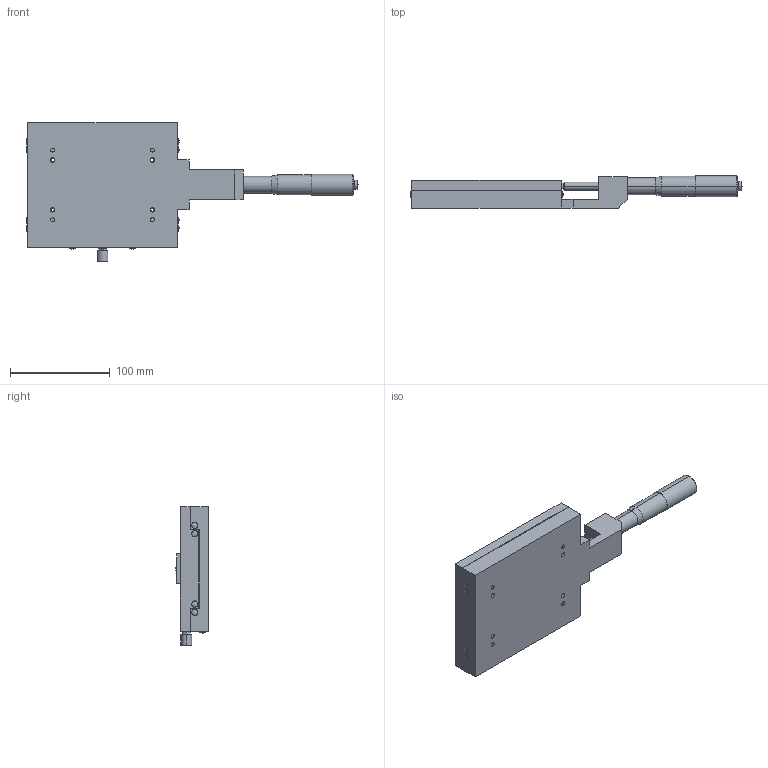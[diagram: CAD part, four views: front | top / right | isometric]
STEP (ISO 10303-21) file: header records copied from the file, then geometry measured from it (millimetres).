
FILE_DESCRIPTION (( 'STEP AP203' ), '1' );
FILE_NAME ('LS-241-C1.STEP', '2008-03-28T08:20:00', ( '' ), ( '' ), 'SwSTEP 2.0', 'SolidWorks 2007', '' );
FILE_SCHEMA (( 'CONFIG_CONTROL_DESIGN' ));
Length unit declared in the file: millimetre
Products named in the file (3): LS-241-C1; LS-241-C1-2_蹬怮椔; LS-241-C1-1_蹬怮椔
Assembly tree (2 placements, depth 2):
  LS-241-C1
    LS-241-C1-2_蹬怮椔
    LS-241-C1-1_蹬怮椔
Bounding box: 333.32 x 32.5 x 139.3 mm (x, y, z)
Volume: 576985.6 mm3; surface area: 128054.2 mm2
Topology: 3 solids, 4 shells, 290 faces, 696 edges, 456 vertices
Faces by surface type: cylinder 151, plane 96, cone 28, bspline 11, torus 2, sphere 2
Entity records: 11197 total; most frequent: CARTESIAN_POINT 3722, DIRECTION 1594, ORIENTED_EDGE 1388, EDGE_CURVE 694, AXIS2_PLACEMENT_3D 638, VERTEX_POINT 456, EDGE_LOOP 406, CIRCLE 354
